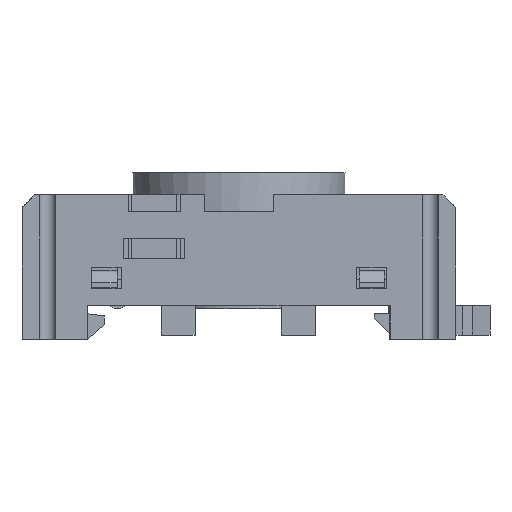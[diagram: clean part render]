
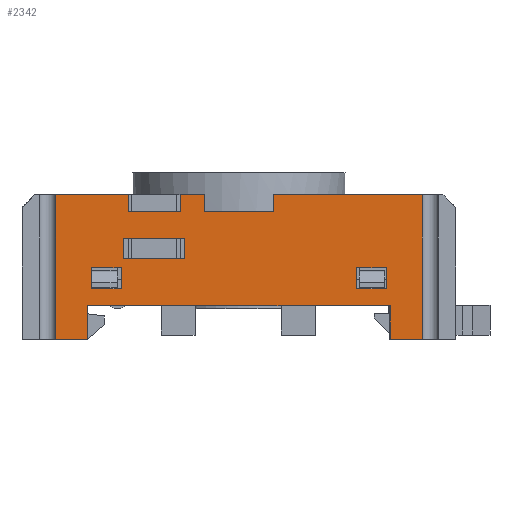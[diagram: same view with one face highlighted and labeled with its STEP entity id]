
A CAD part, front view. The second image highlights one B-rep face of the part: STEP entity #2342.
In plain terms, the highlighted planar face has unit normal (0, -1, 0).
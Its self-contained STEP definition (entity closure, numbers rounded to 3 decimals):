
#2342=ADVANCED_FACE('',(#4414,#4415,#4416,#4417),#3650,.F.);
#3650=PLANE('',#25328);
#4414=FACE_BOUND('',#4902,.T.);
#4415=FACE_BOUND('',#4903,.T.);
#4416=FACE_BOUND('',#4904,.T.);
#4417=FACE_BOUND('',#4905,.T.);
#4902=EDGE_LOOP('',(#8166,#8167,#8168,#8169));
#4903=EDGE_LOOP('',(#8170,#8171,#8172,#8173));
#4904=EDGE_LOOP('',(#8174,#8175,#8176,#8177,#8178,#8179,#8180,#8181,#8182,
#8183,#8184,#8185,#8186,#8187,#8188,#8189));
#4905=EDGE_LOOP('',(#8190,#8191,#8192,#8193));
#8166=ORIENTED_EDGE('',*,*,#17148,.T.);
#8167=ORIENTED_EDGE('',*,*,#17149,.F.);
#8168=ORIENTED_EDGE('',*,*,#17150,.T.);
#8169=ORIENTED_EDGE('',*,*,#17151,.F.);
#8170=ORIENTED_EDGE('',*,*,#17152,.T.);
#8171=ORIENTED_EDGE('',*,*,#17153,.F.);
#8172=ORIENTED_EDGE('',*,*,#17154,.T.);
#8173=ORIENTED_EDGE('',*,*,#17155,.F.);
#8174=ORIENTED_EDGE('',*,*,#17156,.T.);
#8175=ORIENTED_EDGE('',*,*,#17157,.T.);
#8176=ORIENTED_EDGE('',*,*,#17158,.F.);
#8177=ORIENTED_EDGE('',*,*,#17159,.F.);
#8178=ORIENTED_EDGE('',*,*,#17160,.T.);
#8179=ORIENTED_EDGE('',*,*,#17161,.T.);
#8180=ORIENTED_EDGE('',*,*,#17162,.F.);
#8181=ORIENTED_EDGE('',*,*,#17163,.F.);
#8182=ORIENTED_EDGE('',*,*,#17164,.T.);
#8183=ORIENTED_EDGE('',*,*,#17165,.F.);
#8184=ORIENTED_EDGE('',*,*,#17166,.F.);
#8185=ORIENTED_EDGE('',*,*,#17167,.T.);
#8186=ORIENTED_EDGE('',*,*,#17168,.T.);
#8187=ORIENTED_EDGE('',*,*,#17169,.T.);
#8188=ORIENTED_EDGE('',*,*,#17170,.F.);
#8189=ORIENTED_EDGE('',*,*,#17171,.F.);
#8190=ORIENTED_EDGE('',*,*,#17172,.T.);
#8191=ORIENTED_EDGE('',*,*,#17173,.F.);
#8192=ORIENTED_EDGE('',*,*,#17174,.T.);
#8193=ORIENTED_EDGE('',*,*,#17175,.F.);
#14658=VERTEX_POINT('',#37621);
#14659=VERTEX_POINT('',#37622);
#14660=VERTEX_POINT('',#37624);
#14661=VERTEX_POINT('',#37626);
#14662=VERTEX_POINT('',#37629);
#14663=VERTEX_POINT('',#37630);
#14664=VERTEX_POINT('',#37632);
#14665=VERTEX_POINT('',#37634);
#14666=VERTEX_POINT('',#37637);
#14667=VERTEX_POINT('',#37638);
#14668=VERTEX_POINT('',#37640);
#14669=VERTEX_POINT('',#37642);
#14670=VERTEX_POINT('',#37644);
#14671=VERTEX_POINT('',#37646);
#14672=VERTEX_POINT('',#37648);
#14673=VERTEX_POINT('',#37650);
#14674=VERTEX_POINT('',#37652);
#14675=VERTEX_POINT('',#37654);
#14676=VERTEX_POINT('',#37656);
#14677=VERTEX_POINT('',#37658);
#14678=VERTEX_POINT('',#37660);
#14679=VERTEX_POINT('',#37662);
#14680=VERTEX_POINT('',#37664);
#14681=VERTEX_POINT('',#37666);
#14682=VERTEX_POINT('',#37669);
#14683=VERTEX_POINT('',#37670);
#14684=VERTEX_POINT('',#37672);
#14685=VERTEX_POINT('',#37674);
#17148=EDGE_CURVE('',#14658,#14659,#20538,.T.);
#17149=EDGE_CURVE('',#14660,#14659,#20539,.T.);
#17150=EDGE_CURVE('',#14660,#14661,#20540,.T.);
#17151=EDGE_CURVE('',#14658,#14661,#20541,.T.);
#17152=EDGE_CURVE('',#14662,#14663,#20542,.T.);
#17153=EDGE_CURVE('',#14664,#14663,#20543,.T.);
#17154=EDGE_CURVE('',#14664,#14665,#20544,.T.);
#17155=EDGE_CURVE('',#14662,#14665,#20545,.T.);
#17156=EDGE_CURVE('',#14666,#14667,#20546,.T.);
#17157=EDGE_CURVE('',#14667,#14668,#20547,.T.);
#17158=EDGE_CURVE('',#14669,#14668,#20548,.T.);
#17159=EDGE_CURVE('',#14670,#14669,#20549,.T.);
#17160=EDGE_CURVE('',#14670,#14671,#20550,.T.);
#17161=EDGE_CURVE('',#14671,#14672,#20551,.T.);
#17162=EDGE_CURVE('',#14673,#14672,#20552,.T.);
#17163=EDGE_CURVE('',#14674,#14673,#20553,.T.);
#17164=EDGE_CURVE('',#14674,#14675,#20554,.T.);
#17165=EDGE_CURVE('',#14676,#14675,#20555,.T.);
#17166=EDGE_CURVE('',#14677,#14676,#20556,.T.);
#17167=EDGE_CURVE('',#14677,#14678,#20557,.T.);
#17168=EDGE_CURVE('',#14678,#14679,#20558,.T.);
#17169=EDGE_CURVE('',#14679,#14680,#20559,.T.);
#17170=EDGE_CURVE('',#14681,#14680,#20560,.T.);
#17171=EDGE_CURVE('',#14666,#14681,#20561,.T.);
#17172=EDGE_CURVE('',#14682,#14683,#20562,.T.);
#17173=EDGE_CURVE('',#14684,#14683,#20563,.T.);
#17174=EDGE_CURVE('',#14684,#14685,#20564,.T.);
#17175=EDGE_CURVE('',#14682,#14685,#20565,.T.);
#20538=LINE('',#37620,#23039);
#20539=LINE('',#37623,#23040);
#20540=LINE('',#37625,#23041);
#20541=LINE('',#37627,#23042);
#20542=LINE('',#37628,#23043);
#20543=LINE('',#37631,#23044);
#20544=LINE('',#37633,#23045);
#20545=LINE('',#37635,#23046);
#20546=LINE('',#37636,#23047);
#20547=LINE('',#37639,#23048);
#20548=LINE('',#37641,#23049);
#20549=LINE('',#37643,#23050);
#20550=LINE('',#37645,#23051);
#20551=LINE('',#37647,#23052);
#20552=LINE('',#37649,#23053);
#20553=LINE('',#37651,#23054);
#20554=LINE('',#37653,#23055);
#20555=LINE('',#37655,#23056);
#20556=LINE('',#37657,#23057);
#20557=LINE('',#37659,#23058);
#20558=LINE('',#37661,#23059);
#20559=LINE('',#37663,#23060);
#20560=LINE('',#37665,#23061);
#20561=LINE('',#37667,#23062);
#20562=LINE('',#37668,#23063);
#20563=LINE('',#37671,#23064);
#20564=LINE('',#37673,#23065);
#20565=LINE('',#37675,#23066);
#23039=VECTOR('',#28205,1.);
#23040=VECTOR('',#28206,1.);
#23041=VECTOR('',#28207,1.);
#23042=VECTOR('',#28208,1.);
#23043=VECTOR('',#28209,1.);
#23044=VECTOR('',#28210,1.);
#23045=VECTOR('',#28211,1.);
#23046=VECTOR('',#28212,1.);
#23047=VECTOR('',#28213,1.);
#23048=VECTOR('',#28214,1.);
#23049=VECTOR('',#28215,1.);
#23050=VECTOR('',#28216,1.);
#23051=VECTOR('',#28217,1.);
#23052=VECTOR('',#28218,1.);
#23053=VECTOR('',#28219,1.);
#23054=VECTOR('',#28220,1.);
#23055=VECTOR('',#28221,1.);
#23056=VECTOR('',#28222,1.);
#23057=VECTOR('',#28223,1.);
#23058=VECTOR('',#28224,1.);
#23059=VECTOR('',#28225,1.);
#23060=VECTOR('',#28226,1.);
#23061=VECTOR('',#28227,1.);
#23062=VECTOR('',#28228,1.);
#23063=VECTOR('',#28229,1.);
#23064=VECTOR('',#28230,1.);
#23065=VECTOR('',#28231,1.);
#23066=VECTOR('',#28232,1.);
#25328=AXIS2_PLACEMENT_3D('',#37676,#28233,#28234);
#28205=DIRECTION('',(0.,0.,1.));
#28206=DIRECTION('',(-1.,0.,0.));
#28207=DIRECTION('',(0.,0.,-1.));
#28208=DIRECTION('',(1.,0.,0.));
#28209=DIRECTION('',(1.,0.,0.));
#28210=DIRECTION('',(0.,0.,1.));
#28211=DIRECTION('',(-1.,0.,0.));
#28212=DIRECTION('',(0.,0.,-1.));
#28213=DIRECTION('',(-1.,0.,0.));
#28214=DIRECTION('',(0.,0.,1.));
#28215=DIRECTION('',(1.,0.,0.));
#28216=DIRECTION('',(0.,0.,1.));
#28217=DIRECTION('',(-1.,0.,0.));
#28218=DIRECTION('',(0.,0.,1.));
#28219=DIRECTION('',(1.,0.,0.));
#28220=DIRECTION('',(0.,0.,1.));
#28221=DIRECTION('',(1.,0.,0.));
#28222=DIRECTION('',(0.,0.,-1.));
#28223=DIRECTION('',(-1.,0.,0.));
#28224=DIRECTION('',(0.,0.,-1.));
#28225=DIRECTION('',(1.,0.,0.));
#28226=DIRECTION('',(0.,0.,1.));
#28227=DIRECTION('',(1.,0.,0.));
#28228=DIRECTION('',(0.,0.,1.));
#28229=DIRECTION('',(0.,0.,1.));
#28230=DIRECTION('',(-1.,0.,0.));
#28231=DIRECTION('',(0.,0.,-1.));
#28232=DIRECTION('',(1.,0.,0.));
#28233=DIRECTION('',(0.,1.,0.));
#28234=DIRECTION('',(0.,0.,1.));
#37620=CARTESIAN_POINT('',(39.1,0.,5.9));
#37621=CARTESIAN_POINT('',(39.1,0.,5.9));
#37622=CARTESIAN_POINT('',(39.1,0.,8.4));
#37623=CARTESIAN_POINT('',(42.6,0.,8.4));
#37624=CARTESIAN_POINT('',(42.6,0.,8.4));
#37625=CARTESIAN_POINT('',(42.6,0.,8.4));
#37626=CARTESIAN_POINT('',(42.6,0.,5.9));
#37627=CARTESIAN_POINT('',(39.1,0.,5.9));
#37628=CARTESIAN_POINT('',(8.1,0.,8.4));
#37629=CARTESIAN_POINT('',(8.1,0.,8.4));
#37630=CARTESIAN_POINT('',(11.6,0.,8.4));
#37631=CARTESIAN_POINT('',(11.6,0.,5.9));
#37632=CARTESIAN_POINT('',(11.6,0.,5.9));
#37633=CARTESIAN_POINT('',(11.6,0.,5.9));
#37634=CARTESIAN_POINT('',(8.1,0.,5.9));
#37635=CARTESIAN_POINT('',(8.1,0.,8.4));
#37636=CARTESIAN_POINT('',(29.35,0.,14.9));
#37637=CARTESIAN_POINT('',(29.35,0.,14.9));
#37638=CARTESIAN_POINT('',(21.35,0.,14.9));
#37639=CARTESIAN_POINT('',(21.35,0.,14.9));
#37640=CARTESIAN_POINT('',(21.35,0.,16.9));
#37641=CARTESIAN_POINT('',(0.,0.,16.9));
#37642=CARTESIAN_POINT('',(18.5,0.,16.9));
#37643=CARTESIAN_POINT('',(18.5,0.,14.9));
#37644=CARTESIAN_POINT('',(18.5,0.,14.9));
#37645=CARTESIAN_POINT('',(18.5,0.,14.9));
#37646=CARTESIAN_POINT('',(12.4,0.,14.9));
#37647=CARTESIAN_POINT('',(12.4,0.,14.9));
#37648=CARTESIAN_POINT('',(12.4,0.,16.9));
#37649=CARTESIAN_POINT('',(0.,0.,16.9));
#37650=CARTESIAN_POINT('',(3.937,0.,16.9));
#37651=CARTESIAN_POINT('',(3.937,0.,0.));
#37652=CARTESIAN_POINT('',(3.937,0.,0.));
#37653=CARTESIAN_POINT('',(0.,0.,0.));
#37654=CARTESIAN_POINT('',(7.65,0.,0.));
#37655=CARTESIAN_POINT('',(7.65,0.,3.95));
#37656=CARTESIAN_POINT('',(7.65,0.,3.95));
#37657=CARTESIAN_POINT('',(43.05,0.,3.95));
#37658=CARTESIAN_POINT('',(43.05,0.,3.95));
#37659=CARTESIAN_POINT('',(43.05,0.,3.95));
#37660=CARTESIAN_POINT('',(43.05,0.,0.));
#37661=CARTESIAN_POINT('',(0.,0.,0.));
#37662=CARTESIAN_POINT('',(46.763,0.,0.));
#37663=CARTESIAN_POINT('',(46.763,0.,0.));
#37664=CARTESIAN_POINT('',(46.763,0.,16.9));
#37665=CARTESIAN_POINT('',(0.,0.,16.9));
#37666=CARTESIAN_POINT('',(29.35,0.,16.9));
#37667=CARTESIAN_POINT('',(29.35,0.,14.9));
#37668=CARTESIAN_POINT('',(11.85,0.,9.4));
#37669=CARTESIAN_POINT('',(11.85,0.,9.4));
#37670=CARTESIAN_POINT('',(11.85,0.,11.8));
#37671=CARTESIAN_POINT('',(19.05,0.,11.8));
#37672=CARTESIAN_POINT('',(19.05,0.,11.8));
#37673=CARTESIAN_POINT('',(19.05,0.,11.8));
#37674=CARTESIAN_POINT('',(19.05,0.,9.4));
#37675=CARTESIAN_POINT('',(11.85,0.,9.4));
#37676=CARTESIAN_POINT('',(0.,0.,16.9));
